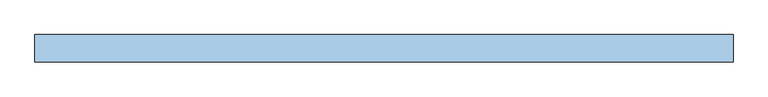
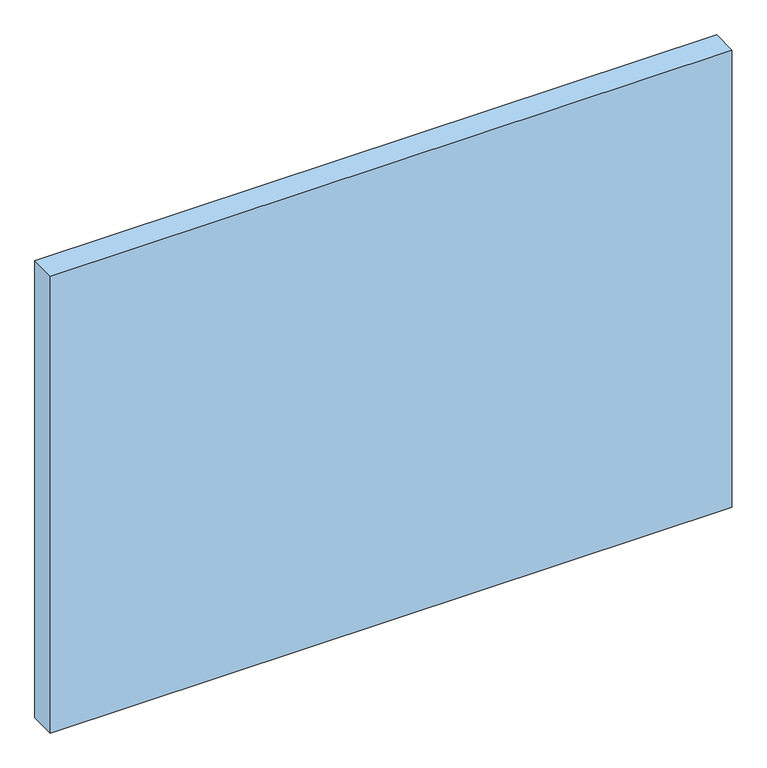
"""IFC4 building model written with IfcOpenShell, lengths in millimetres: window geometry, Dr_Проем-Четверти_окно : ОК."""

from ifc_helpers import new_model, si_unit, frame, origin, place, context, project, spatial, polyline, outline, extrude, source, transform, mapped, element, save


def window_5e4bb9f7(model_context):
    return source(origin(), model_context, "Body", "SweptSolid", [
        extrude(outline(polyline([(2055.0, 50.0), (2055.0, -100.0), (-1785.0, -100.0), (-1785.0, 50.0), (2055.0, 50.0)])), frame((0.0, 0.0, -60.0), z_axis=(0.0, 0.0, 1.0), x_axis=(1.0, 0.0, 0.0)), (0.0, 0.0, 1.0), 2720.0),
    ])


if __name__ == "__main__":
    model = new_model("IFC4")
    model_context = context("Model", 3, world=origin())
    ifc_project = project(units=[si_unit("LENGTHUNIT", "METRE", prefix="MILLI")], contexts=[model_context])
    site = spatial("IfcSite", under=ifc_project)
    building = spatial("IfcBuilding", under=site)
    placement = place(None, origin())
    window_shape = window_5e4bb9f7(model_context)
    element("IfcWindow", 1, ObjectType="Dr_Проем-Четверти_окно : ОК", at=placement, inside=building, context=model_context, shape_type="MappedRepresentation", body=[
        mapped(window_shape, transform((0.0, 0.0, 0.0), x_axis=(1.0, 0.0, 0.0), y_axis=(0.0, 1.0, 0.0), z_axis=(0.0, 0.0, 1.0))),
    ])
    save(model, "model.ifc")
